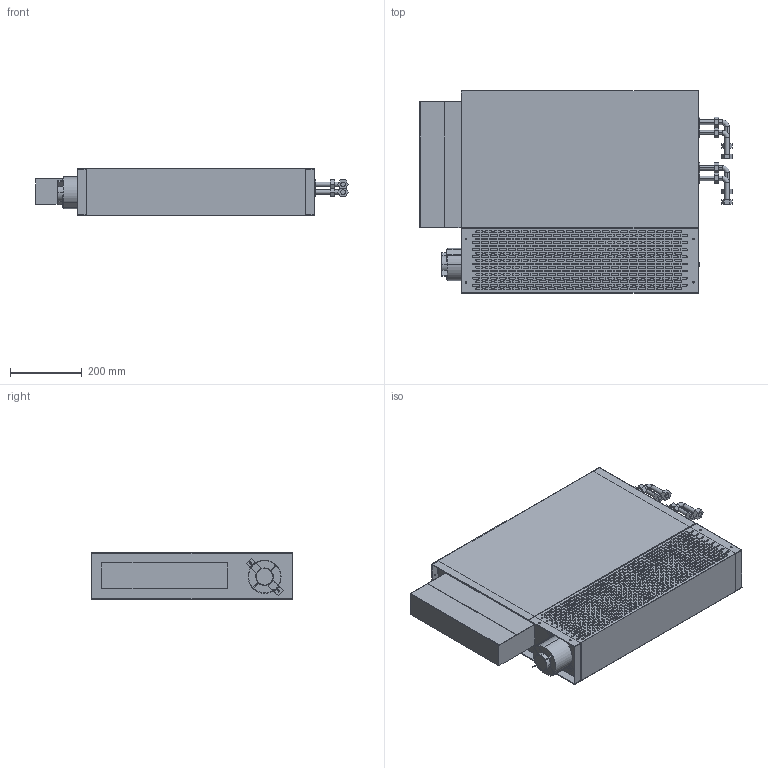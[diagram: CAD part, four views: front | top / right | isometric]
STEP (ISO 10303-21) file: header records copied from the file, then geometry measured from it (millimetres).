
FILE_DESCRIPTION (( 'STEP AP214' ), '1' );
FILE_NAME ('PFWSLA-02-4pipe_v2.STEP', '2024-10-22T13:50:53', ( '' ), ( '' ), 'SwSTEP 2.0', 'SolidWorks 2023', '' );
FILE_SCHEMA (( 'AUTOMOTIVE_DESIGN' ));
Length unit declared in the file: inch
Products named in the file (1): PFWSLA-02-4pipe_v2
Bounding box: 869.24 x 561.98 x 130.18 mm (x, y, z)
Volume: 14394850.4 mm3; surface area: 3258180.4 mm2
Topology: 32 solids, 32 shells, 3324 faces, 9212 edges, 6124 vertices
Faces by surface type: plane 1950, cylinder 1366, torus 8
Entity records: 108684 total; most frequent: CARTESIAN_POINT 18661, DIRECTION 18618, ORIENTED_EDGE 18424, EDGE_CURVE 9212, VECTOR 6456, LINE 6456, VERTEX_POINT 6124, AXIS2_PLACEMENT_3D 6081
